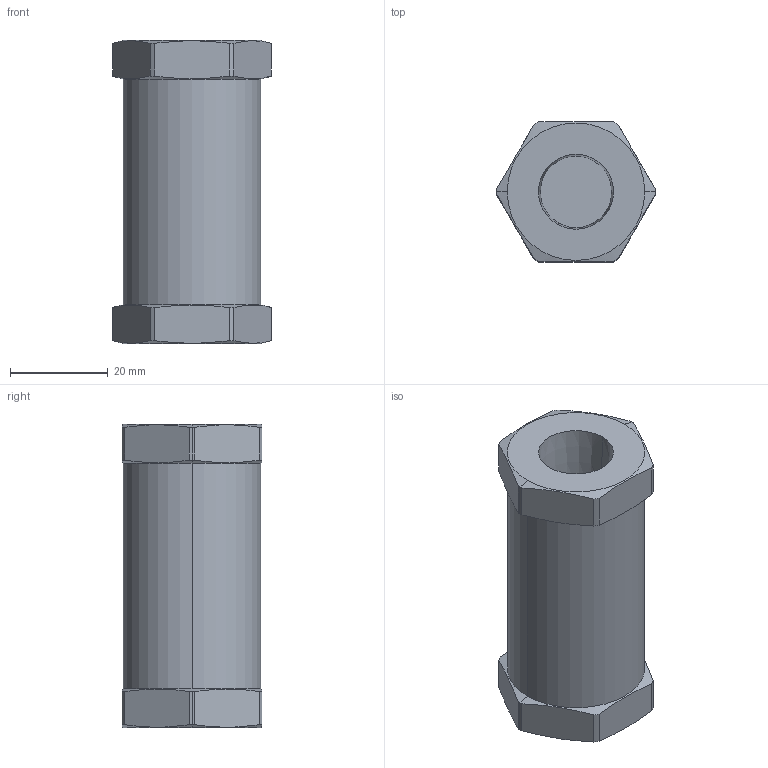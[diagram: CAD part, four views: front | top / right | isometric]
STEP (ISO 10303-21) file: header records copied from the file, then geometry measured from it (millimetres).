
FILE_DESCRIPTION (( 'STEP AP203' ), '1' );
FILE_NAME ('CV-375B-__-__.STEP', '2011-11-04T21:11:52', ( 'Tim' ), ( 'Microsoft' ), 'SwSTEP 2.0', 'SolidWorks 2011', '' );
FILE_SCHEMA (( 'CONFIG_CONTROL_DESIGN' ));
Length unit declared in the file: inch
Products named in the file (1): CV-375B-__-__
Bounding box: 32.37 x 28.57 x 61.9 mm (x, y, z)
Volume: 35593.2 mm3; surface area: 8149.5 mm2
Topology: 1 solids, 1 shells, 44 faces, 112 edges, 72 vertices
Faces by surface type: cylinder 16, plane 16, cone 12
Entity records: 1571 total; most frequent: CARTESIAN_POINT 429, DIRECTION 226, ORIENTED_EDGE 224, EDGE_CURVE 112, AXIS2_PLACEMENT_3D 93, VERTEX_POINT 72, CIRCLE 48, EDGE_LOOP 46
